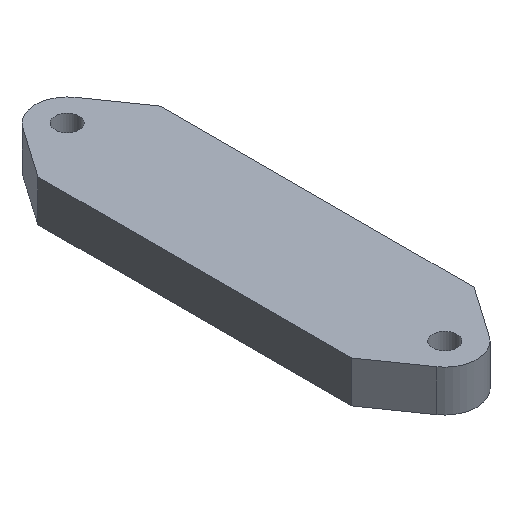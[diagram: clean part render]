
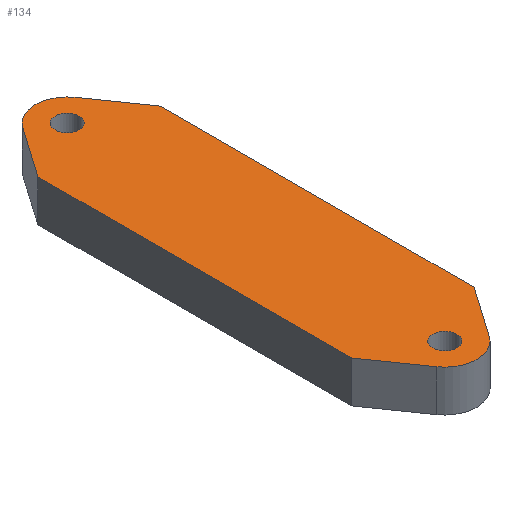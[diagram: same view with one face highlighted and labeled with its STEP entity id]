
A CAD part, isometric view. The second image highlights one B-rep face of the part: STEP entity #134.
In plain terms, the highlighted planar face has unit normal (0, 0, 1).
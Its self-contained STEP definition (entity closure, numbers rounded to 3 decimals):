
#134=ADVANCED_FACE('',(#266,#267,#268),#159,.T.);
#159=PLANE('',#558);
#183=LINE('',#738,#227);
#186=LINE('',#744,#230);
#189=LINE('',#752,#233);
#191=LINE('',#756,#235);
#193=LINE('',#760,#237);
#195=LINE('',#766,#239);
#227=VECTOR('',#606,1.);
#230=VECTOR('',#611,1.);
#233=VECTOR('',#620,1.);
#235=VECTOR('',#624,1.);
#237=VECTOR('',#628,1.);
#239=VECTOR('',#636,1.);
#266=FACE_BOUND('',#293,.T.);
#267=FACE_BOUND('',#294,.T.);
#268=FACE_BOUND('',#295,.T.);
#293=EDGE_LOOP('',(#365));
#294=EDGE_LOOP('',(#366));
#295=EDGE_LOOP('',(#367,#368,#369,#370,#371,#372,#373,#374));
#365=ORIENTED_EDGE('',*,*,#501,.F.);
#366=ORIENTED_EDGE('',*,*,#502,.F.);
#367=ORIENTED_EDGE('',*,*,#486,.T.);
#368=ORIENTED_EDGE('',*,*,#489,.T.);
#369=ORIENTED_EDGE('',*,*,#491,.T.);
#370=ORIENTED_EDGE('',*,*,#493,.T.);
#371=ORIENTED_EDGE('',*,*,#495,.T.);
#372=ORIENTED_EDGE('',*,*,#497,.T.);
#373=ORIENTED_EDGE('',*,*,#499,.T.);
#374=ORIENTED_EDGE('',*,*,#500,.T.);
#445=VERTEX_POINT('',#737);
#446=VERTEX_POINT('',#739);
#447=VERTEX_POINT('',#743);
#448=VERTEX_POINT('',#747);
#449=VERTEX_POINT('',#751);
#450=VERTEX_POINT('',#755);
#451=VERTEX_POINT('',#759);
#452=VERTEX_POINT('',#763);
#453=VERTEX_POINT('',#769);
#454=VERTEX_POINT('',#771);
#486=EDGE_CURVE('',#446,#445,#183,.T.);
#489=EDGE_CURVE('',#445,#447,#186,.T.);
#491=EDGE_CURVE('',#447,#448,#531,.T.);
#493=EDGE_CURVE('',#448,#449,#189,.T.);
#495=EDGE_CURVE('',#449,#450,#191,.T.);
#497=EDGE_CURVE('',#450,#451,#193,.T.);
#499=EDGE_CURVE('',#451,#452,#532,.T.);
#500=EDGE_CURVE('',#452,#446,#195,.T.);
#501=EDGE_CURVE('',#453,#453,#533,.T.);
#502=EDGE_CURVE('',#454,#454,#534,.T.);
#531=CIRCLE('',#548,6.);
#532=CIRCLE('',#553,6.);
#533=CIRCLE('',#556,2.25);
#534=CIRCLE('',#557,2.25);
#548=AXIS2_PLACEMENT_3D('',#748,#615,#616);
#553=AXIS2_PLACEMENT_3D('',#764,#632,#633);
#556=AXIS2_PLACEMENT_3D('',#768,#639,#640);
#557=AXIS2_PLACEMENT_3D('',#770,#641,#642);
#558=AXIS2_PLACEMENT_3D('',#772,#643,#644);
#606=DIRECTION('',(0.,-1.,0.));
#611=DIRECTION('',(0.572,-0.82,0.));
#615=DIRECTION('',(0.,0.,1.));
#616=DIRECTION('',(1.,0.,0.));
#620=DIRECTION('',(0.572,0.82,0.));
#624=DIRECTION('',(0.,1.,0.));
#628=DIRECTION('',(-0.572,0.82,0.));
#632=DIRECTION('',(0.,0.,1.));
#633=DIRECTION('',(1.,0.,0.));
#636=DIRECTION('',(-0.572,-0.82,0.));
#639=DIRECTION('',(0.,0.,1.));
#640=DIRECTION('',(1.,0.,0.));
#641=DIRECTION('',(0.,0.,1.));
#642=DIRECTION('',(1.,0.,0.));
#643=DIRECTION('',(0.,0.,1.));
#644=DIRECTION('',(1.,0.,0.));
#737=CARTESIAN_POINT('',(-11.5,-29.5,7.8));
#738=CARTESIAN_POINT('',(-11.5,29.5,7.8));
#739=CARTESIAN_POINT('',(-11.5,29.5,7.8));
#743=CARTESIAN_POINT('',(-4.921,-38.932,7.8));
#744=CARTESIAN_POINT('',(-11.5,-29.5,7.8));
#747=CARTESIAN_POINT('',(4.921,-38.932,7.8));
#748=CARTESIAN_POINT('',(0.,-35.5,7.8));
#751=CARTESIAN_POINT('',(11.5,-29.5,7.8));
#752=CARTESIAN_POINT('',(4.921,-38.932,7.8));
#755=CARTESIAN_POINT('',(11.5,29.5,7.8));
#756=CARTESIAN_POINT('',(11.5,-29.5,7.8));
#759=CARTESIAN_POINT('',(4.921,38.932,7.8));
#760=CARTESIAN_POINT('',(11.5,29.5,7.8));
#763=CARTESIAN_POINT('',(-4.921,38.932,7.8));
#764=CARTESIAN_POINT('',(0.,35.5,7.8));
#766=CARTESIAN_POINT('',(-4.921,38.932,7.8));
#768=CARTESIAN_POINT('',(0.,-35.5,7.8));
#769=CARTESIAN_POINT('',(2.25,-35.5,7.8));
#770=CARTESIAN_POINT('',(0.,35.5,7.8));
#771=CARTESIAN_POINT('',(2.25,35.5,7.8));
#772=CARTESIAN_POINT('',(0.,-35.5,7.8));
